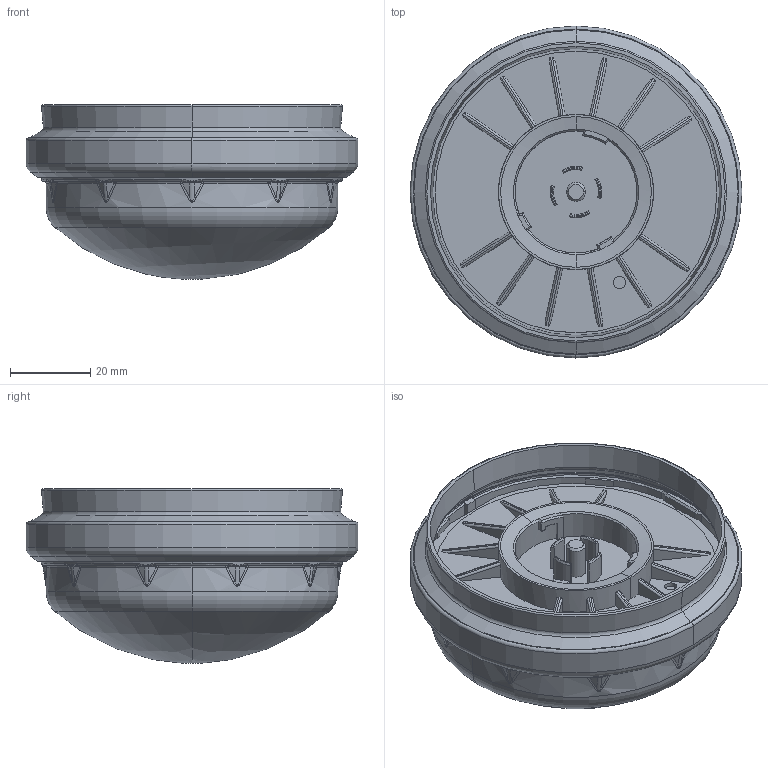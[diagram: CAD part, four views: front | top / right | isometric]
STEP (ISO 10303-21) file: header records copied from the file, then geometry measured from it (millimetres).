
FILE_DESCRIPTION((''),'2;1');
FILE_NAME('15013203Z_DMEC_79-7X38-5_COM_RS','2019-04-15T13:13:50',('emanuel.wild'),(''),'CREO PARAMETRIC BY PTC INC, 2017380','CREO PARAMETRIC BY PTC INC, 2017380','');
FILE_SCHEMA(('AUTOMOTIVE_DESIGN { 1 0 10303 214 1 1 1 1 }'));
Length unit declared in the file: millimetre
Products named in the file (1): 15013203Z_DMEC_79-7X38-5_COM_RS
Bounding box: 82.7 x 82.7 x 43.38 mm (x, y, z)
Volume: 108627.6 mm3; surface area: 38043.7 mm2
Topology: 2 solids, 6 shells, 783 faces, 2091 edges, 1301 vertices
Faces by surface type: plane 338, cylinder 188, bspline 100, torus 78, cone 61, sphere 18
Entity records: 33646 total; most frequent: CARTESIAN_POINT 14455, ORIENTED_EDGE 4146, DIRECTION 3753, EDGE_CURVE 2073, AXIS2_PLACEMENT_3D 1373, VERTEX_POINT 1301, VECTOR 1007, LINE 1007
